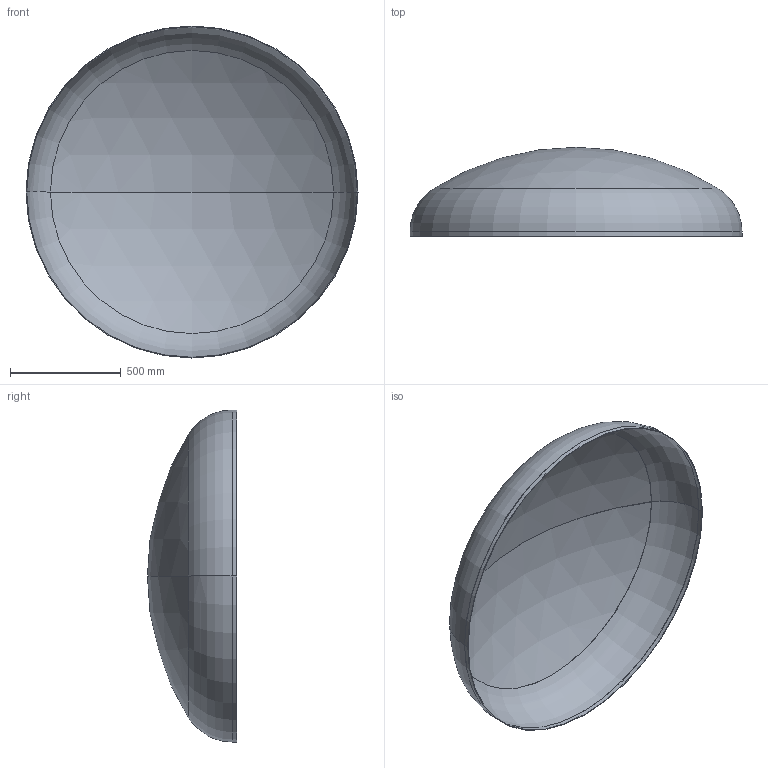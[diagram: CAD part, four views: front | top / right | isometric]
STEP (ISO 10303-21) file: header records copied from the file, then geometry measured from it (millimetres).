
FILE_DESCRIPTION (( 'STEP AP203' ), '1' );
FILE_NAME ('DIN 28013 Korbbogenform_-_Boden DIN 28013 - 1500 x 20 - I - s=3.step', '2016-07-01T10:32:49', ( '' ), ( '' ), 'SwSTEP 2.0', 'SolidWorks 2013', '' );
FILE_SCHEMA (( 'CONFIG_CONTROL_DESIGN' ));
Length unit declared in the file: millimetre
Products named in the file (1): DIN 28013 Korbbogenform_-_Boden DIN 28013 - 1500 x 20 - I - s=3
Bounding box: 1500 x 402.26 x 1500 mm (x, y, z)
Volume: 7599723.2 mm3; surface area: 5080607.8 mm2
Topology: 1 solids, 1 shells, 13 faces, 24 edges, 14 vertices
Faces by surface type: torus 4, cylinder 4, sphere 4, plane 1
Entity records: 407 total; most frequent: DIRECTION 72, CARTESIAN_POINT 52, ORIENTED_EDGE 48, AXIS2_PLACEMENT_3D 34, EDGE_CURVE 24, CIRCLE 20, EDGE_LOOP 14, VERTEX_POINT 14
